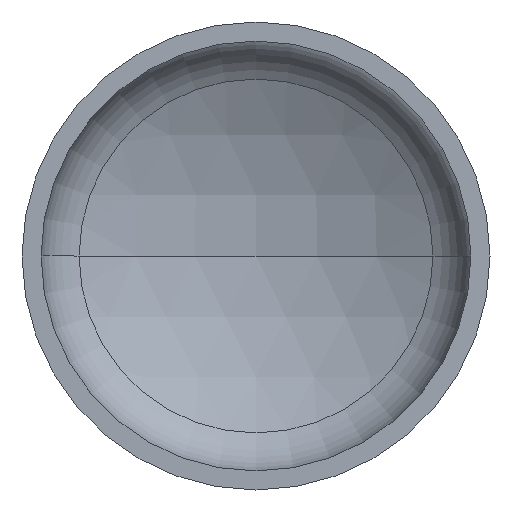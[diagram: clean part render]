
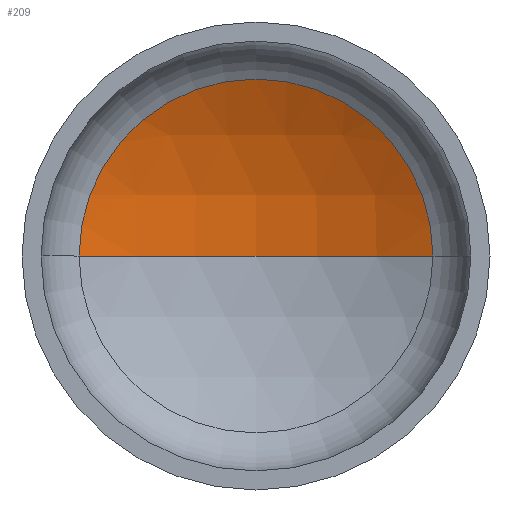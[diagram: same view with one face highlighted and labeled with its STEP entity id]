
A CAD part, front view. The second image highlights one B-rep face of the part: STEP entity #209.
In plain terms, the highlighted spherical face has radius 2080 mm.
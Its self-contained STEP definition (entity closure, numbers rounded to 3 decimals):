
#16 = AXIS2_PLACEMENT_3D ( 'NONE', #268, #184, #291 ) ;
#19 = AXIS2_PLACEMENT_3D ( 'NONE', #356, #216, #233 ) ;
#20 = AXIS2_PLACEMENT_3D ( 'NONE', #253, #56, #276 ) ;
#21 = AXIS2_PLACEMENT_3D ( 'NONE', #351, #186, #320 ) ;
#35 = ORIENTED_EDGE ( 'NONE', *, *, #67, .T. ) ;
#46 = VERTEX_POINT ( 'NONE', #371 ) ;
#56 = DIRECTION ( 'NONE',  ( 0., 0., -1. ) ) ;
#67 = EDGE_CURVE ( 'NONE', #46, #105, #84, .T. ) ;
#71 = EDGE_CURVE ( 'NONE', #403, #46, #302, .T. ) ;
#73 = CIRCLE ( 'NONE', #19, 2080. ) ;
#80 = ORIENTED_EDGE ( 'NONE', *, *, #71, .T. ) ;
#84 = CIRCLE ( 'NONE', #21, 983.048 ) ;
#103 = EDGE_CURVE ( 'NONE', #403, #105, #73, .T. ) ;
#105 = VERTEX_POINT ( 'NONE', #252 ) ;
#114 = EDGE_LOOP ( 'NONE', ( #132, #80, #35 ) ) ;
#132 = ORIENTED_EDGE ( 'NONE', *, *, #103, .F. ) ;
#177 = SPHERICAL_SURFACE ( 'NONE', #16, 2080. ) ;
#184 = DIRECTION ( 'NONE',  ( 0., 0., -1. ) ) ;
#186 = DIRECTION ( 'NONE',  ( 0., -1., 0. ) ) ;
#195 = CARTESIAN_POINT ( 'NONE',  ( 0., 674.472, 0. ) ) ;
#209 = ADVANCED_FACE ( 'NONE', ( #366 ), #177, .F. ) ;
#216 = DIRECTION ( 'NONE',  ( 0., 0., 1. ) ) ;
#233 = DIRECTION ( 'NONE',  ( 1., 0., 0. ) ) ;
#252 = CARTESIAN_POINT ( 'NONE',  ( -983.048, 427.507, 0. ) ) ;
#253 = CARTESIAN_POINT ( 'NONE',  ( 0., -1405.528, 0. ) ) ;
#268 = CARTESIAN_POINT ( 'NONE',  ( 0., -1405.528, 0. ) ) ;
#276 = DIRECTION ( 'NONE',  ( -1., 0., 0. ) ) ;
#291 = DIRECTION ( 'NONE',  ( -1., 0., 0. ) ) ;
#302 = CIRCLE ( 'NONE', #20, 2080. ) ;
#320 = DIRECTION ( 'NONE',  ( 1., 0., 0. ) ) ;
#351 = CARTESIAN_POINT ( 'NONE',  ( 0., 427.507, 0. ) ) ;
#356 = CARTESIAN_POINT ( 'NONE',  ( 0., -1405.528, 0. ) ) ;
#366 = FACE_OUTER_BOUND ( 'NONE', #114, .T. ) ;
#371 = CARTESIAN_POINT ( 'NONE',  ( 983.048, 427.507, 0. ) ) ;
#403 = VERTEX_POINT ( 'NONE', #195 ) ;
